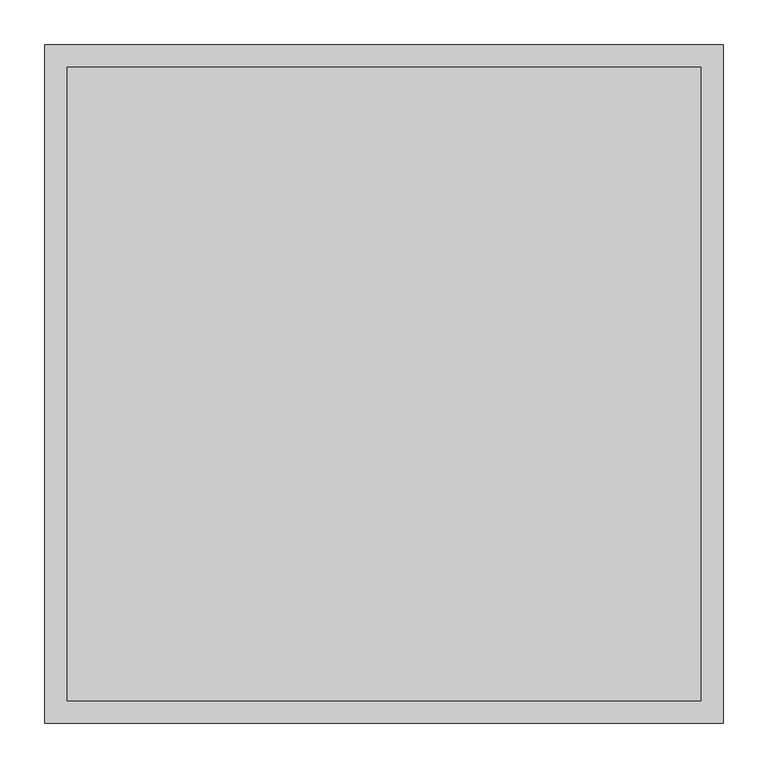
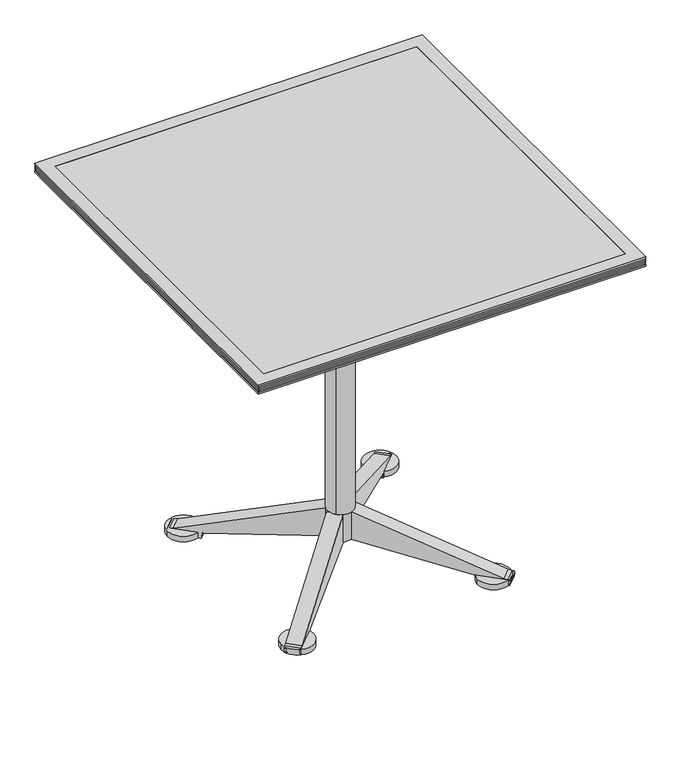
"""IFC4 building model written with IfcOpenShell, lengths in millimetres: furniture geometry, Coalesse_AM_Table_Conference_Ballet_Square : 30L x 30W - Fixed/Glide."""

from ifc_helpers import new_model, si_unit, point, frame, frame_2d, origin, origin_with_axes, place, context, project, spatial, polyline, circle_curve, trimmed, segment, composite_curve, outline, extrude, faceted_brep, source, transform, mapped, element, save


def furniture_112e565e(model_context):
    return source(origin(), model_context, "Body", "SolidModel", [
        extrude(outline(composite_curve([segment(trimmed(circle_curve(frame_2d((-194.715793, 197.3207687)), 31.75), [point((-226.465793, 197.3207687))], [point((-162.965793, 197.3207687))], False, "CARTESIAN"), True, "CONTINUOUS"), segment(trimmed(circle_curve(frame_2d((-194.715793, 197.3207687)), 31.75), [point((-162.965793, 197.3207687))], [point((-226.465793, 197.3207687))], False, "CARTESIAN"), True, "CONTINUOUS")], self_intersect=False)), frame((0.0, 0.0, 4.2904479), z_axis=(0.0, 0.0, 1.0), x_axis=(1.0, 0.0, 0.0)), (0.0, 0.0, 1.0), 11.3833531),
        extrude(outline(composite_curve([segment(trimmed(circle_curve(frame_2d((191.7194605, 196.5270187)), 31.75), [point((159.9694605, 196.5270187))], [point((223.4694605, 196.5270187))], False, "CARTESIAN"), True, "CONTINUOUS"), segment(trimmed(circle_curve(frame_2d((191.7194605, 196.5270187)), 31.75), [point((223.4694605, 196.5270187))], [point((159.9694605, 196.5270187))], False, "CARTESIAN"), True, "CONTINUOUS")], self_intersect=False)), frame((0.0, 0.0, 4.2904479), z_axis=(0.0, 0.0, 1.0), x_axis=(1.0, 0.0, 0.0)), (0.0, 0.0, 1.0), 11.3833531),
        extrude(outline(composite_curve([segment(trimmed(circle_curve(frame_2d((-194.715793, -191.2787692)), 31.75), [point((-226.465793, -191.2787692))], [point((-162.965793, -191.2787692))], False, "CARTESIAN"), True, "CONTINUOUS"), segment(trimmed(circle_curve(frame_2d((-194.715793, -191.2787692)), 31.75), [point((-162.965793, -191.2787692))], [point((-226.465793, -191.2787692))], False, "CARTESIAN"), True, "CONTINUOUS")], self_intersect=False)), frame((0.0, 0.0, 4.2904479), z_axis=(0.0, 0.0, 1.0), x_axis=(1.0, 0.0, 0.0)), (0.0, 0.0, 1.0), 11.3833531),
        extrude(outline(composite_curve([segment(trimmed(circle_curve(frame_2d((191.7194605, -190.4850192)), 31.75), [point((159.9694605, -190.4850192))], [point((223.4694605, -190.4850192))], False, "CARTESIAN"), True, "CONTINUOUS"), segment(trimmed(circle_curve(frame_2d((191.7194605, -190.4850192)), 31.75), [point((223.4694605, -190.4850192))], [point((159.9694605, -190.4850192))], False, "CARTESIAN"), True, "CONTINUOUS")], self_intersect=False)), frame((0.0, 0.0, 4.2904479), z_axis=(0.0, 0.0, 1.0), x_axis=(1.0, 0.0, 0.0)), (0.0, 0.0, 1.0), 11.3833531),
        extrude(outline(composite_curve([segment(polyline([(-57.749273, 0.0), (0.0, 0.0), (-90.9931074, -269.8641919), (-92.3030079, -279.1846177)]), True, "CONTINUOUS"), segment(trimmed(circle_curve(frame_2d((-93.9206951, -278.9572666)), 1.6335852), [point((-92.3030079, -279.1846177))], [point((-93.8206014, -280.5877823))], False, "CARTESIAN"), True, "CONTINUOUS"), segment(trimmed(circle_curve(frame_2d((-95.8523928, -247.4901147)), 33.1599725), [point((-93.8206014, -280.5877823))], [point((-101.682402, -280.1335639))], False, "CARTESIAN"), True, "CONTINUOUS"), segment(trimmed(circle_curve(frame_2d((-101.2796868, -277.8786768)), 2.2905666), [point((-101.682402, -280.1335639))], [point((-103.5674671, -277.7657306))], False, "CARTESIAN"), True, "CONTINUOUS"), segment(polyline([(-103.5674671, -277.7657306), (-103.5674671, -222.4322812)]), True, "CONTINUOUS"), segment(trimmed(circle_curve(frame_2d((-100.6154331, -221.9840334)), 2.9858719), [point((-103.5674671, -222.4322812))], [point((-100.2998684, -219.0148838))], False, "CARTESIAN"), True, "CONTINUOUS"), segment(trimmed(circle_curve(frame_2d((-98.3053249, -200.2482144)), 18.872363), [point((-100.2998684, -219.0148838))], [point((-94.5016021, -218.7332835))], True, "CARTESIAN"), True, "CONTINUOUS"), segment(trimmed(circle_curve(frame_2d((-95.1495986, -215.5841949)), 3.2150673), [point((-94.5016021, -218.7332835))], [point((-91.9741141, -216.0871422))], True, "CARTESIAN"), True, "CONTINUOUS"), segment(polyline([(-91.9741141, -216.0871422), (-57.749273, 0.0)]), True, "CONTINUOUS")], self_intersect=False)), frame((-23.5273141, 7.7834997, 107.857915), z_axis=(0.7071067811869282, 0.707106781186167, 0.0), x_axis=(0.0, 0.0, 1.0)), (0.0, 0.0, 1.0), 29.2174476),
        extrude(outline(composite_curve([segment(polyline([(-57.749273, 44.2801775), (-91.9741141, 260.3673198)]), True, "CONTINUOUS"), segment(trimmed(circle_curve(frame_2d((-95.1495986, 259.8643724)), 3.2150673), [point((-91.9741141, 260.3673198))], [point((-94.5016021, 263.013461))], True, "CARTESIAN"), True, "CONTINUOUS"), segment(trimmed(circle_curve(frame_2d((-98.3053249, 244.5283919)), 18.872363), [point((-94.5016021, 263.013461))], [point((-100.2998684, 263.2950613))], True, "CARTESIAN"), True, "CONTINUOUS"), segment(trimmed(circle_curve(frame_2d((-100.6154331, 266.2642109)), 2.9858719), [point((-100.2998684, 263.2950613))], [point((-103.5674671, 266.7124587))], False, "CARTESIAN"), True, "CONTINUOUS"), segment(polyline([(-103.5674671, 266.7124587), (-103.5674671, 322.0459081)]), True, "CONTINUOUS"), segment(trimmed(circle_curve(frame_2d((-101.2796868, 322.1588543)), 2.2905666), [point((-103.5674671, 322.0459081))], [point((-101.682402, 324.4137415))], False, "CARTESIAN"), True, "CONTINUOUS"), segment(trimmed(circle_curve(frame_2d((-95.8523928, 291.7702923)), 33.1599725), [point((-101.682402, 324.4137415))], [point((-93.8206014, 324.8679598))], False, "CARTESIAN"), True, "CONTINUOUS"), segment(trimmed(circle_curve(frame_2d((-93.9206951, 323.2374442)), 1.6335852), [point((-93.8206014, 324.8679598))], [point((-92.3030079, 323.4647953))], False, "CARTESIAN"), True, "CONTINUOUS"), segment(polyline([(-92.3030079, 323.4647953), (-90.9931074, 314.1443694), (0.0, 44.2801775), (-57.749273, 44.2801775)]), True, "CONTINUOUS")], self_intersect=False)), frame((-23.5273141, 7.7834997, 107.857915), z_axis=(0.7071067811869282, 0.707106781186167, 0.0), x_axis=(0.0, 0.0, 1.0)), (0.0, 0.0, 1.0), 29.2174476),
        extrude(outline(composite_curve([segment(polyline([(-57.749273, 0.0), (0.0, 0.0), (-90.9931074, -269.8641919), (-92.3030079, -279.1846177)]), True, "CONTINUOUS"), segment(trimmed(circle_curve(frame_2d((-93.9206951, -278.9572666)), 1.6335852), [point((-92.3030079, -279.1846177))], [point((-93.8206014, -280.5877823))], False, "CARTESIAN"), True, "CONTINUOUS"), segment(trimmed(circle_curve(frame_2d((-95.8523928, -247.4901147)), 33.1599725), [point((-93.8206014, -280.5877823))], [point((-101.682402, -280.1335639))], False, "CARTESIAN"), True, "CONTINUOUS"), segment(trimmed(circle_curve(frame_2d((-101.2796868, -277.8786768)), 2.2905666), [point((-101.682402, -280.1335639))], [point((-103.5674671, -277.7657306))], False, "CARTESIAN"), True, "CONTINUOUS"), segment(polyline([(-103.5674671, -277.7657306), (-103.5674671, -222.4322812)]), True, "CONTINUOUS"), segment(trimmed(circle_curve(frame_2d((-100.6154331, -221.9840334)), 2.9858719), [point((-103.5674671, -222.4322812))], [point((-100.2998684, -219.0148838))], False, "CARTESIAN"), True, "CONTINUOUS"), segment(trimmed(circle_curve(frame_2d((-98.3053249, -200.2482144)), 18.872363), [point((-100.2998684, -219.0148838))], [point((-94.5016021, -218.7332835))], True, "CARTESIAN"), True, "CONTINUOUS"), segment(trimmed(circle_curve(frame_2d((-95.1495986, -215.5841949)), 3.2150673), [point((-94.5016021, -218.7332835))], [point((-91.9741141, -216.0871422))], True, "CARTESIAN"), True, "CONTINUOUS"), segment(polyline([(-91.9741141, -216.0871422), (-57.749273, 0.0)]), True, "CONTINUOUS")], self_intersect=False)), frame((-7.7834997, -23.5273141, 107.857915), z_axis=(-0.7071067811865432, 0.7071067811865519, 0.0), x_axis=(0.0, 0.0, 1.0)), (0.0, 0.0, 1.0), 29.2174476),
        extrude(outline(composite_curve([segment(polyline([(-57.749273, 44.2801775), (-91.9741141, 260.3673198)]), True, "CONTINUOUS"), segment(trimmed(circle_curve(frame_2d((-95.1495986, 259.8643724)), 3.2150673), [point((-91.9741141, 260.3673198))], [point((-94.5016021, 263.013461))], True, "CARTESIAN"), True, "CONTINUOUS"), segment(trimmed(circle_curve(frame_2d((-98.3053249, 244.5283919)), 18.872363), [point((-94.5016021, 263.013461))], [point((-100.2998684, 263.2950613))], True, "CARTESIAN"), True, "CONTINUOUS"), segment(trimmed(circle_curve(frame_2d((-100.6154331, 266.2642109)), 2.9858719), [point((-100.2998684, 263.2950613))], [point((-103.5674671, 266.7124587))], False, "CARTESIAN"), True, "CONTINUOUS"), segment(polyline([(-103.5674671, 266.7124587), (-103.5674671, 322.0459081)]), True, "CONTINUOUS"), segment(trimmed(circle_curve(frame_2d((-101.2796868, 322.1588543)), 2.2905666), [point((-103.5674671, 322.0459081))], [point((-101.682402, 324.4137415))], False, "CARTESIAN"), True, "CONTINUOUS"), segment(trimmed(circle_curve(frame_2d((-95.8523928, 291.7702923)), 33.1599725), [point((-101.682402, 324.4137415))], [point((-93.8206014, 324.8679598))], False, "CARTESIAN"), True, "CONTINUOUS"), segment(trimmed(circle_curve(frame_2d((-93.9206951, 323.2374442)), 1.6335852), [point((-93.8206014, 324.8679598))], [point((-92.3030079, 323.4647953))], False, "CARTESIAN"), True, "CONTINUOUS"), segment(polyline([(-92.3030079, 323.4647953), (-90.9931074, 314.1443694), (0.0, 44.2801775), (-57.749273, 44.2801775)]), True, "CONTINUOUS")], self_intersect=False)), frame((-7.7834997, -23.5273141, 107.857915), z_axis=(-0.7071067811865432, 0.7071067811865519, 0.0), x_axis=(0.0, 0.0, 1.0)), (0.0, 0.0, 1.0), 29.2174476),
        extrude(outline(composite_curve([segment(polyline([(-57.749273, 0.0), (0.0, 0.0), (-90.9931074, -269.8641919), (-92.3030079, -279.1846177)]), True, "CONTINUOUS"), segment(trimmed(circle_curve(frame_2d((-93.9206951, -278.9572666)), 1.6335852), [point((-92.3030079, -279.1846177))], [point((-93.8206014, -280.5877823))], False, "CARTESIAN"), True, "CONTINUOUS"), segment(trimmed(circle_curve(frame_2d((-95.8523928, -247.4901147)), 33.1599725), [point((-93.8206014, -280.5877823))], [point((-101.682402, -280.1335639))], False, "CARTESIAN"), True, "CONTINUOUS"), segment(trimmed(circle_curve(frame_2d((-101.2796868, -277.8786768)), 2.2905666), [point((-101.682402, -280.1335639))], [point((-103.5674671, -277.7657306))], False, "CARTESIAN"), True, "CONTINUOUS"), segment(polyline([(-103.5674671, -277.7657306), (-103.5674671, -222.4322812)]), True, "CONTINUOUS"), segment(trimmed(circle_curve(frame_2d((-100.6154331, -221.9840334)), 2.9858719), [point((-103.5674671, -222.4322812))], [point((-100.2998684, -219.0148838))], False, "CARTESIAN"), True, "CONTINUOUS"), segment(trimmed(circle_curve(frame_2d((-98.3053249, -200.2482144)), 18.872363), [point((-100.2998684, -219.0148838))], [point((-94.5016021, -218.7332835))], True, "CARTESIAN"), True, "CONTINUOUS"), segment(trimmed(circle_curve(frame_2d((-95.1495986, -215.5841949)), 3.2150673), [point((-94.5016021, -218.7332835))], [point((-91.9741141, -216.0871422))], True, "CARTESIAN"), True, "CONTINUOUS"), segment(polyline([(-91.9741141, -216.0871422), (-57.749273, 0.0)]), True, "CONTINUOUS")], self_intersect=False)), frame((-23.5273141, 7.7834997, 107.857915), z_axis=(0.7071067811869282, 0.707106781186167, 0.0), x_axis=(0.0, 0.0, 1.0)), (0.0, 0.0, 1.0), 29.2174476),
        extrude(outline(composite_curve([segment(polyline([(-57.749273, 44.2801775), (-91.9741141, 260.3673198)]), True, "CONTINUOUS"), segment(trimmed(circle_curve(frame_2d((-95.1495986, 259.8643724)), 3.2150673), [point((-91.9741141, 260.3673198))], [point((-94.5016021, 263.013461))], True, "CARTESIAN"), True, "CONTINUOUS"), segment(trimmed(circle_curve(frame_2d((-98.3053249, 244.5283919)), 18.872363), [point((-94.5016021, 263.013461))], [point((-100.2998684, 263.2950613))], True, "CARTESIAN"), True, "CONTINUOUS"), segment(trimmed(circle_curve(frame_2d((-100.6154331, 266.2642109)), 2.9858719), [point((-100.2998684, 263.2950613))], [point((-103.5674671, 266.7124587))], False, "CARTESIAN"), True, "CONTINUOUS"), segment(polyline([(-103.5674671, 266.7124587), (-103.5674671, 322.0459081)]), True, "CONTINUOUS"), segment(trimmed(circle_curve(frame_2d((-101.2796868, 322.1588543)), 2.2905666), [point((-103.5674671, 322.0459081))], [point((-101.682402, 324.4137415))], False, "CARTESIAN"), True, "CONTINUOUS"), segment(trimmed(circle_curve(frame_2d((-95.8523928, 291.7702923)), 33.1599725), [point((-101.682402, 324.4137415))], [point((-93.8206014, 324.8679598))], False, "CARTESIAN"), True, "CONTINUOUS"), segment(trimmed(circle_curve(frame_2d((-93.9206951, 323.2374442)), 1.6335852), [point((-93.8206014, 324.8679598))], [point((-92.3030079, 323.4647953))], False, "CARTESIAN"), True, "CONTINUOUS"), segment(polyline([(-92.3030079, 323.4647953), (-90.9931074, 314.1443694), (0.0, 44.2801775), (-57.749273, 44.2801775)]), True, "CONTINUOUS")], self_intersect=False)), frame((-23.5273141, 7.7834997, 107.857915), z_axis=(0.7071067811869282, 0.707106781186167, 0.0), x_axis=(0.0, 0.0, 1.0)), (0.0, 0.0, 1.0), 29.2174476),
        extrude(outline(composite_curve([segment(polyline([(-57.749273, 0.0), (0.0, 0.0), (-90.9931074, -269.8641919), (-92.3030079, -279.1846177)]), True, "CONTINUOUS"), segment(trimmed(circle_curve(frame_2d((-93.9206951, -278.9572666)), 1.6335852), [point((-92.3030079, -279.1846177))], [point((-93.8206014, -280.5877823))], False, "CARTESIAN"), True, "CONTINUOUS"), segment(trimmed(circle_curve(frame_2d((-95.8523928, -247.4901147)), 33.1599725), [point((-93.8206014, -280.5877823))], [point((-101.682402, -280.1335639))], False, "CARTESIAN"), True, "CONTINUOUS"), segment(trimmed(circle_curve(frame_2d((-101.2796868, -277.8786768)), 2.2905666), [point((-101.682402, -280.1335639))], [point((-103.5674671, -277.7657306))], False, "CARTESIAN"), True, "CONTINUOUS"), segment(polyline([(-103.5674671, -277.7657306), (-103.5674671, -222.4322812)]), True, "CONTINUOUS"), segment(trimmed(circle_curve(frame_2d((-100.6154331, -221.9840334)), 2.9858719), [point((-103.5674671, -222.4322812))], [point((-100.2998684, -219.0148838))], False, "CARTESIAN"), True, "CONTINUOUS"), segment(trimmed(circle_curve(frame_2d((-98.3053249, -200.2482144)), 18.872363), [point((-100.2998684, -219.0148838))], [point((-94.5016021, -218.7332835))], True, "CARTESIAN"), True, "CONTINUOUS"), segment(trimmed(circle_curve(frame_2d((-95.1495986, -215.5841949)), 3.2150673), [point((-94.5016021, -218.7332835))], [point((-91.9741141, -216.0871422))], True, "CARTESIAN"), True, "CONTINUOUS"), segment(polyline([(-91.9741141, -216.0871422), (-57.749273, 0.0)]), True, "CONTINUOUS")], self_intersect=False)), frame((-7.7834997, -23.5273141, 107.857915), z_axis=(-0.7071067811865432, 0.7071067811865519, 0.0), x_axis=(0.0, 0.0, 1.0)), (0.0, 0.0, 1.0), 29.2174476),
        extrude(outline(composite_curve([segment(polyline([(-57.749273, 44.2801775), (-91.9741141, 260.3673198)]), True, "CONTINUOUS"), segment(trimmed(circle_curve(frame_2d((-95.1495986, 259.8643724)), 3.2150673), [point((-91.9741141, 260.3673198))], [point((-94.5016021, 263.013461))], True, "CARTESIAN"), True, "CONTINUOUS"), segment(trimmed(circle_curve(frame_2d((-98.3053249, 244.5283919)), 18.872363), [point((-94.5016021, 263.013461))], [point((-100.2998684, 263.2950613))], True, "CARTESIAN"), True, "CONTINUOUS"), segment(trimmed(circle_curve(frame_2d((-100.6154331, 266.2642109)), 2.9858719), [point((-100.2998684, 263.2950613))], [point((-103.5674671, 266.7124587))], False, "CARTESIAN"), True, "CONTINUOUS"), segment(polyline([(-103.5674671, 266.7124587), (-103.5674671, 322.0459081)]), True, "CONTINUOUS"), segment(trimmed(circle_curve(frame_2d((-101.2796868, 322.1588543)), 2.2905666), [point((-103.5674671, 322.0459081))], [point((-101.682402, 324.4137415))], False, "CARTESIAN"), True, "CONTINUOUS"), segment(trimmed(circle_curve(frame_2d((-95.8523928, 291.7702923)), 33.1599725), [point((-101.682402, 324.4137415))], [point((-93.8206014, 324.8679598))], False, "CARTESIAN"), True, "CONTINUOUS"), segment(trimmed(circle_curve(frame_2d((-93.9206951, 323.2374442)), 1.6335852), [point((-93.8206014, 324.8679598))], [point((-92.3030079, 323.4647953))], False, "CARTESIAN"), True, "CONTINUOUS"), segment(polyline([(-92.3030079, 323.4647953), (-90.9931074, 314.1443694), (0.0, 44.2801775), (-57.749273, 44.2801775)]), True, "CONTINUOUS")], self_intersect=False)), frame((-7.7834997, -23.5273141, 107.857915), z_axis=(-0.7071067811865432, 0.7071067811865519, 0.0), x_axis=(0.0, 0.0, 1.0)), (0.0, 0.0, 1.0), 29.2174476),
        extrude(outline(composite_curve([segment(polyline([(-37.2834365, 26.9246599), (-26.8661847, 37.3419116)]), True, "CONTINUOUS"), segment(trimmed(circle_curve(frame_2d((0.0745836, 10.4011432)), 38.1), [point((-26.8661847, 37.3419116))], [point((27.015352, 37.3419116))], False, "CARTESIAN"), True, "CONTINUOUS"), segment(polyline([(27.015352, 37.3419116), (38.9313594, 25.4259042)]), True, "CONTINUOUS"), segment(trimmed(circle_curve(frame_2d((13.4893466, -0.0161085)), 35.9804395), [point((38.9313594, 25.4259042))], [point((38.9313594, -25.4581212))], False, "CARTESIAN"), True, "CONTINUOUS"), segment(polyline([(38.9313594, -25.4581212), (27.015352, -37.3741286)]), True, "CONTINUOUS"), segment(trimmed(circle_curve(frame_2d((0.0745836, -10.4333602)), 38.1), [point((27.015352, -37.3741286))], [point((-26.8661847, -37.3741286))], False, "CARTESIAN"), True, "CONTINUOUS"), segment(polyline([(-26.8661847, -37.3741286), (-37.2834365, -26.9568769)]), True, "CONTINUOUS"), segment(trimmed(circle_curve(frame_2d((-10.3426681, -0.0161085)), 38.1), [point((-37.2834365, -26.9568769))], [point((-37.2834365, 26.9246599))], False, "CARTESIAN"), True, "CONTINUOUS")], self_intersect=False)), frame((0.0, 0.0, 607.6784119), z_axis=(0.0, 0.0, 1.0), x_axis=(1.0, 0.0, 0.0)), (0.0, 0.0, 1.0), 50.3081696),
        extrude(outline(composite_curve([segment(polyline([(-81.1409418, 49.3084633), (-49.5692956, 80.8801095)]), True, "CONTINUOUS"), segment(trimmed(circle_curve(frame_2d((0.0, 156.1108358)), 90.0931587), [point((-49.5692956, 80.8801095))], [point((49.871233, 81.0799264))], True, "CARTESIAN"), True, "CONTINUOUS"), segment(polyline([(49.871233, 81.0799264), (81.1309866, 49.8201728)]), True, "CONTINUOUS"), segment(trimmed(circle_curve(frame_2d((153.3620811, 0.0)), 87.7461145), [point((81.1309866, 49.8201728))], [point((81.7629451, -50.7241989))], True, "CARTESIAN"), True, "CONTINUOUS"), segment(polyline([(81.7629451, -50.7241989), (50.5881651, -81.8989789)]), True, "CONTINUOUS"), segment(trimmed(circle_curve(frame_2d((0.0, -154.7295322)), 88.6761069), [point((50.5881651, -81.8989789))], [point((-51.0893198, -82.2496499))], True, "CARTESIAN"), True, "CONTINUOUS"), segment(polyline([(-51.0893198, -82.2496499), (-82.3248918, -51.014078)]), True, "CONTINUOUS"), segment(trimmed(circle_curve(frame_2d((-153.9959305, 0.0)), 87.9725749), [point((-82.3248918, -51.014078))], [point((-81.1409418, 49.3084633))], True, "CARTESIAN"), True, "CONTINUOUS")], self_intersect=False)), frame((0.0, 0.0, 635.3095602), z_axis=(0.0, 0.0, 1.0), x_axis=(1.0, 0.0, 0.0)), (0.0, 0.0, 1.0), 22.6770213),
        extrude(outline(composite_curve([segment(polyline([(113.5341679, 0.0), (115.2899262, -10.0922386)]), True, "CONTINUOUS"), segment(trimmed(circle_curve(frame_2d((109.4715659, -11.1181725)), 5.9081179), [point((115.2899262, -10.0922386))], [point((112.4302147, -16.2321))], False, "CARTESIAN"), True, "CONTINUOUS"), segment(trimmed(circle_curve(frame_2d((-123.0846109, 390.8475551)), 470.2989248), [point((112.4302147, -16.2321))], [point((-41.0580682, -72.2428518))], False, "CARTESIAN"), True, "CONTINUOUS"), segment(trimmed(circle_curve(frame_2d((-123.0846109, 390.8475551)), 470.2989248), [point((-41.0580682, -72.2428518))], [point((-66.3016738, -76.0108568))], False, "CARTESIAN"), True, "CONTINUOUS"), segment(trimmed(circle_curve(frame_2d((-64.5252058, -90.6166359)), 14.7134164), [point((-66.3016738, -76.0108568))], [point((-76.8966336, -82.6521903))], True, "CARTESIAN"), True, "CONTINUOUS"), segment(trimmed(circle_curve(frame_2d((-64.5252058, -90.6166359)), 14.7134164), [point((-76.8966336, -82.6521903))], [point((-79.0128702, -93.1841644))], True, "CARTESIAN"), True, "CONTINUOUS"), segment(trimmed(circle_curve(frame_2d((-82.4193718, -93.7878704)), 3.4595829), [point((-79.0128702, -93.1841644))], [point((-81.5814971, -97.144458))], False, "CARTESIAN"), True, "CONTINUOUS"), segment(polyline([(-81.5814971, -97.144458), (-160.8938241, -97.144458)]), True, "CONTINUOUS"), segment(trimmed(circle_curve(frame_2d((-160.0559494, -93.7878704)), 3.4595829), [point((-160.8938241, -97.144458))], [point((-163.462451, -93.1841644))], False, "CARTESIAN"), True, "CONTINUOUS"), segment(trimmed(circle_curve(frame_2d((-177.9501154, -90.6166359)), 14.7134164), [point((-163.462451, -93.1841644))], [point((-165.5786876, -82.6521903))], True, "CARTESIAN"), True, "CONTINUOUS"), segment(trimmed(circle_curve(frame_2d((-177.9501154, -90.6166359)), 14.7134164), [point((-165.5786876, -82.6521903))], [point((-176.1736474, -76.0108568))], True, "CARTESIAN"), True, "CONTINUOUS"), segment(trimmed(circle_curve(frame_2d((-119.3907103, 390.8475551)), 470.2989248), [point((-176.1736474, -76.0108568))], [point((-201.417253, -72.2428518))], False, "CARTESIAN"), True, "CONTINUOUS"), segment(trimmed(circle_curve(frame_2d((-119.3907103, 390.8475551)), 470.2989248), [point((-201.417253, -72.2428518))], [point((-354.9055359, -16.2321))], False, "CARTESIAN"), True, "CONTINUOUS"), segment(trimmed(circle_curve(frame_2d((-351.9468871, -11.1181725)), 5.9081179), [point((-354.9055359, -16.2321))], [point((-357.7652474, -10.0922386))], False, "CARTESIAN"), True, "CONTINUOUS"), segment(polyline([(-357.7652474, -10.0922386), (-355.9857135, 0.0679469), (-243.7205553, 0.0679469)]), True, "CONTINUOUS"), segment(trimmed(circle_curve(frame_2d((-184.2805603, 14.4713039)), 61.1601971), [point((-243.7205553, 0.0679469))], [point((-195.8898677, -45.5769575))], True, "CARTESIAN"), True, "CONTINUOUS"), segment(trimmed(circle_curve(frame_2d((-133.6508876, 282.6884214)), 334.1135281), [point((-195.8898677, -45.5769575))], [point((-152.1077021, -50.9149293))], True, "CARTESIAN"), True, "CONTINUOUS"), segment(trimmed(circle_curve(frame_2d((-151.5110625, -39.8460589)), 11.0849389), [point((-152.1077021, -50.9149293))], [point((-142.3165925, -46.0377945))], True, "CARTESIAN"), True, "CONTINUOUS"), segment(polyline([(-142.3165925, -46.0377945), (-100.193637, -46.0377945)]), True, "CONTINUOUS"), segment(trimmed(circle_curve(frame_2d((-91.0046411, -39.8584423)), 11.0734837), [point((-100.193637, -46.0377945))], [point((-90.2559551, -50.9065873))], True, "CARTESIAN"), True, "CONTINUOUS"), segment(trimmed(circle_curve(frame_2d((-108.7814051, 282.6895624)), 334.1101367), [point((-90.2559551, -50.9065873))], [point((-46.5723215, -45.5780317))], True, "CARTESIAN"), True, "CONTINUOUS"), segment(trimmed(circle_curve(frame_2d((-58.1722458, 14.4515716)), 61.1400975), [point((-46.5723215, -45.5780317))], [point((1.2353597, 0.0))], True, "CARTESIAN"), True, "CONTINUOUS"), segment(polyline([(1.2353597, 0.0), (113.5341679, 0.0)]), True, "CONTINUOUS")], self_intersect=False)), frame((-101.3833789, 70.072565, 704.85), z_axis=(0.7071067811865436, 0.7071067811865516, 0.0), x_axis=(-0.7071067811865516, 0.7071067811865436, 0.0)), (0.0, 0.0, 1.0), 44.2801776),
        extrude(outline(composite_curve([segment(polyline([(112.2651581, 0.0), (114.044692, -10.1601855)]), True, "CONTINUOUS"), segment(trimmed(circle_curve(frame_2d((108.2263318, -11.1861194)), 5.9081179), [point((114.044692, -10.1601855))], [point((111.1849806, -16.3000469))], False, "CARTESIAN"), True, "CONTINUOUS"), segment(trimmed(circle_curve(frame_2d((-124.3298451, 390.7796082)), 470.2989248), [point((111.1849806, -16.3000469))], [point((-42.3033023, -72.3107987))], False, "CARTESIAN"), True, "CONTINUOUS"), segment(trimmed(circle_curve(frame_2d((-124.3298451, 390.7796082)), 470.2989248), [point((-42.3033023, -72.3107987))], [point((-67.5469079, -76.0788037))], False, "CARTESIAN"), True, "CONTINUOUS"), segment(trimmed(circle_curve(frame_2d((-65.77044, -90.6845828)), 14.7134164), [point((-67.5469079, -76.0788037))], [point((-78.1418678, -82.7201372))], True, "CARTESIAN"), True, "CONTINUOUS"), segment(trimmed(circle_curve(frame_2d((-65.77044, -90.6845828)), 14.7134164), [point((-78.1418678, -82.7201372))], [point((-80.2581043, -93.2521113))], True, "CARTESIAN"), True, "CONTINUOUS"), segment(trimmed(circle_curve(frame_2d((-83.6646059, -93.8558173)), 3.4595829), [point((-80.2581043, -93.2521113))], [point((-82.8267313, -97.2124049))], False, "CARTESIAN"), True, "CONTINUOUS"), segment(polyline([(-82.8267313, -97.2124049), (-162.1390582, -97.2124049)]), True, "CONTINUOUS"), segment(trimmed(circle_curve(frame_2d((-161.3011835, -93.8558173)), 3.4595829), [point((-162.1390582, -97.2124049))], [point((-164.7076852, -93.2521113))], False, "CARTESIAN"), True, "CONTINUOUS"), segment(trimmed(circle_curve(frame_2d((-179.1953495, -90.6845828)), 14.7134164), [point((-164.7076852, -93.2521113))], [point((-166.8239217, -82.7201372))], True, "CARTESIAN"), True, "CONTINUOUS"), segment(trimmed(circle_curve(frame_2d((-179.1953495, -90.6845828)), 14.7134164), [point((-166.8239217, -82.7201372))], [point((-177.4188815, -76.0788037))], True, "CARTESIAN"), True, "CONTINUOUS"), segment(trimmed(circle_curve(frame_2d((-120.6359444, 390.7796082)), 470.2989248), [point((-177.4188815, -76.0788037))], [point((-202.6624871, -72.3107987))], False, "CARTESIAN"), True, "CONTINUOUS"), segment(trimmed(circle_curve(frame_2d((-120.6359444, 390.7796082)), 470.2989248), [point((-202.6624871, -72.3107987))], [point((-356.1507701, -16.3000469))], False, "CARTESIAN"), True, "CONTINUOUS"), segment(trimmed(circle_curve(frame_2d((-353.1921213, -11.1861194)), 5.9081179), [point((-356.1507701, -16.3000469))], [point((-359.0104815, -10.1601855))], False, "CARTESIAN"), True, "CONTINUOUS"), segment(polyline([(-359.0104815, -10.1601855), (-357.2547233, -0.0679469), (-244.955915, -0.0679469)]), True, "CONTINUOUS"), segment(trimmed(circle_curve(frame_2d((-185.5483095, 14.3836247)), 61.1400975), [point((-244.955915, -0.0679469))], [point((-197.1482338, -45.6459786))], True, "CARTESIAN"), True, "CONTINUOUS"), segment(trimmed(circle_curve(frame_2d((-134.9391503, 282.6216155)), 334.1101367), [point((-197.1482338, -45.6459786))], [point((-153.4646002, -50.9745342))], True, "CARTESIAN"), True, "CONTINUOUS"), segment(trimmed(circle_curve(frame_2d((-152.7159142, -39.9263892)), 11.0734837), [point((-153.4646002, -50.9745342))], [point((-143.5269184, -46.1057414))], True, "CARTESIAN"), True, "CONTINUOUS"), segment(polyline([(-143.5269184, -46.1057414), (-101.4039629, -46.1057414)]), True, "CONTINUOUS"), segment(trimmed(circle_curve(frame_2d((-92.2094928, -39.9140058)), 11.0849389), [point((-101.4039629, -46.1057414))], [point((-91.6128533, -50.9828762))], True, "CARTESIAN"), True, "CONTINUOUS"), segment(trimmed(circle_curve(frame_2d((-110.0696677, 282.6204745)), 334.1135281), [point((-91.6128533, -50.9828762))], [point((-47.8306877, -45.6449044))], True, "CARTESIAN"), True, "CONTINUOUS"), segment(trimmed(circle_curve(frame_2d((-59.4399951, 14.403357)), 61.1601971), [point((-47.8306877, -45.6449044))], [point((0.0, 0.0))], True, "CARTESIAN"), True, "CONTINUOUS"), segment(polyline([(0.0, 0.0), (112.2651581, 0.0)]), True, "CONTINUOUS")], self_intersect=False)), frame((-70.9530785, -102.2638924, 704.9179469), z_axis=(-0.707106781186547, 0.7071067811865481, 0.0), x_axis=(-0.7071067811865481, -0.707106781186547, 0.0)), (0.0, 0.0, 1.0), 44.2801776),
        extrude(outline(composite_curve([segment(trimmed(circle_curve(frame_2d((1.04e-05, -1.04e-05)), 25.3999999), [point((-17.9605018, -17.9605225))], [point((17.9605225, 17.9605018))], False, "CARTESIAN"), True, "CONTINUOUS"), segment(trimmed(circle_curve(frame_2d((1.04e-05, -1.04e-05)), 25.3999999), [point((17.9605225, 17.9605018))], [point((-17.9605018, -17.9605225))], False, "CARTESIAN"), True, "CONTINUOUS")], self_intersect=False)), frame((0.0, 0.0, 107.857915), z_axis=(0.0, 0.0, 1.0), x_axis=(1.0, 0.0, 0.0)), (0.0, 0.0, 1.0), 499.8204968),
        extrude(outline(composite_curve([segment(trimmed(circle_curve(frame_2d((192.2336051, -190.6461051)), 25.4), [point((174.2730929, -208.6066174))], [point((210.1941174, -172.6855929))], False, "CARTESIAN"), True, "CONTINUOUS"), segment(trimmed(circle_curve(frame_2d((192.2336051, -190.6461051)), 25.4), [point((210.1941174, -172.6855929))], [point((174.2730929, -208.6066174))], False, "CARTESIAN"), True, "CONTINUOUS")], self_intersect=False)), origin_with_axes(), (0.0, 0.0, 1.0), 4.2904479),
        extrude(outline(composite_curve([segment(trimmed(circle_curve(frame_2d((192.2336051, 196.9961051)), 25.4), [point((174.2730929, 179.0355929))], [point((210.1941174, 214.9566174))], False, "CARTESIAN"), True, "CONTINUOUS"), segment(trimmed(circle_curve(frame_2d((192.2336051, 196.9961051)), 25.4), [point((210.1941174, 214.9566174))], [point((174.2730929, 179.0355929))], False, "CARTESIAN"), True, "CONTINUOUS")], self_intersect=False)), origin_with_axes(), (0.0, 0.0, 1.0), 4.2904479),
        extrude(outline(composite_curve([segment(trimmed(circle_curve(frame_2d((-194.6148551, -191.4398551)), 25.4), [point((-212.5753674, -209.4003674))], [point((-176.6543429, -173.4793429))], False, "CARTESIAN"), True, "CONTINUOUS"), segment(trimmed(circle_curve(frame_2d((-194.6148551, -191.4398551)), 25.4), [point((-176.6543429, -173.4793429))], [point((-212.5753674, -209.4003674))], False, "CARTESIAN"), True, "CONTINUOUS")], self_intersect=False)), origin_with_axes(), (0.0, 0.0, 1.0), 4.2904479),
        extrude(outline(composite_curve([segment(trimmed(circle_curve(frame_2d((-194.2179801, 197.3929801)), 25.4), [point((-212.1784924, 179.4324679))], [point((-176.2574679, 215.3534924))], False, "CARTESIAN"), True, "CONTINUOUS"), segment(trimmed(circle_curve(frame_2d((-194.2179801, 197.3929801)), 25.4), [point((-176.2574679, 215.3534924))], [point((-212.1784924, 179.4324679))], False, "CARTESIAN"), True, "CONTINUOUS")], self_intersect=False)), origin_with_axes(), (0.0, 0.0, 1.0), 4.2904479),
        extrude(outline(composite_curve([segment(trimmed(circle_curve(frame_2d((1.04e-05, -1.04e-05)), 25.3999999), [point((-17.9605018, -17.9605225))], [point((17.9605225, 17.9605018))], False, "CARTESIAN"), True, "CONTINUOUS"), segment(trimmed(circle_curve(frame_2d((1.04e-05, -1.04e-05)), 25.3999999), [point((17.9605225, 17.9605018))], [point((-17.9605018, -17.9605225))], False, "CARTESIAN"), True, "CONTINUOUS")], self_intersect=False)), frame((0.0, 0.0, 50.8000015), z_axis=(0.0, 0.0, 1.0), x_axis=(1.0, 0.0, 0.0)), (0.0, 0.0, 1.0), 556.8784104),
        faceted_brep([(-381.0003633, 381.0, 704.85), (-355.6003876, 355.6000242, 698.5000242), (-355.6003876, -355.5999516, 698.5000242), (-381.0003633, -380.9999273, 704.85), (-381.0003633, 381.0, 708.0250242), (-381.0003633, -380.9999273, 708.0250242), (-377.8253755, 377.8250121, 709.6125), (-377.8253755, -377.8249394, 709.6125), (-381.0003633, 381.0, 711.1999758), (-381.0003633, -380.9999273, 711.1999758), (-377.8253755, 377.8250121, 712.7875242), (-377.8253755, -377.8249394, 712.7875242), (-381.0003633, 381.0, 714.375), (-381.0003633, -380.9999273, 714.375), (-377.8253755, 377.8250121, 715.9624758), (-377.8253755, -377.8249394, 715.9624758), (-381.0003633, 381.0, 717.5500242), (-381.0003633, -380.9999273, 717.5500242), (-377.8253755, 377.8250121, 719.1375), (-377.8253755, -377.8249394, 719.1375), (-381.0003633, 381.0, 720.7249758), (-381.0003633, -380.9999273, 720.7249758), (-381.0003633, 381.0, 723.9), (-381.0003633, -380.9999273, 723.9), (-355.6003876, 355.6000242, 723.9), (-355.6003876, -355.5999516, 723.9), (355.5998062, -355.5999516, 698.5000242), (380.999782, -380.9999273, 704.85), (380.999782, -380.9999273, 708.0250242), (377.8247941, -377.8249394, 709.6125), (380.999782, -380.9999273, 711.1999758), (377.8247941, -377.8249394, 712.7875242), (380.999782, -380.9999273, 714.375), (377.8247941, -377.8249394, 715.9624758), (380.999782, -380.9999273, 717.5500242), (377.8247941, -377.8249394, 719.1375), (380.999782, -380.9999273, 720.7249758), (380.999782, -380.9999273, 723.9), (355.5998062, -355.5999516, 723.9), (355.5998062, 355.6000242, 698.5000242), (380.999782, 381.0, 704.85), (380.999782, 381.0, 708.0250242), (377.8247941, 377.8250121, 709.6125), (380.999782, 381.0, 711.1999758), (377.8247941, 377.8250121, 712.7875242), (380.999782, 381.0, 714.375), (377.8247941, 377.8250121, 715.9624758), (380.999782, 381.0, 717.5500242), (377.8247941, 377.8250121, 719.1375), (380.999782, 381.0, 720.7249758), (380.999782, 381.0, 723.9), (355.5998062, 355.6000242, 723.9)], [[[0, 1, 2, 3]], [[4, 0, 3, 5]], [[6, 4, 5, 7]], [[8, 6, 7, 9]], [[10, 8, 9, 11]], [[12, 10, 11, 13]], [[14, 12, 13, 15]], [[16, 14, 15, 17]], [[18, 16, 17, 19]], [[20, 18, 19, 21]], [[22, 20, 21, 23]], [[1, 24, 25, 2]], [[3, 2, 26, 27]], [[5, 3, 27, 28]], [[7, 5, 28, 29]], [[9, 7, 29, 30]], [[11, 9, 30, 31]], [[13, 11, 31, 32]], [[15, 13, 32, 33]], [[17, 15, 33, 34]], [[19, 17, 34, 35]], [[21, 19, 35, 36]], [[23, 21, 36, 37]], [[2, 25, 38, 26]], [[27, 26, 39, 40]], [[28, 27, 40, 41]], [[29, 28, 41, 42]], [[30, 29, 42, 43]], [[31, 30, 43, 44]], [[32, 31, 44, 45]], [[33, 32, 45, 46]], [[34, 33, 46, 47]], [[35, 34, 47, 48]], [[36, 35, 48, 49]], [[37, 36, 49, 50]], [[26, 38, 51, 39]], [[40, 39, 1, 0]], [[41, 40, 0, 4]], [[42, 41, 4, 6]], [[43, 42, 6, 8]], [[44, 43, 8, 10]], [[45, 44, 10, 12]], [[46, 45, 12, 14]], [[47, 46, 14, 16]], [[48, 47, 16, 18]], [[49, 48, 18, 20]], [[50, 49, 20, 22]], [[23, 37, 50, 22], [24, 51, 38, 25]], [[39, 51, 24, 1]]]),
        extrude(outline(polyline([(355.5998062, 355.6000242), (355.5998062, -355.5999516), (-355.6003876, -355.5999516), (-355.6003876, 355.6000242), (355.5998062, 355.6000242)])), frame((0.0, 0.0, 704.85), z_axis=(0.0, 0.0, 1.0), x_axis=(1.0, 0.0, 0.0)), (0.0, 0.0, 1.0), 19.05),
    ])


if __name__ == "__main__":
    model = new_model("IFC4")
    model_context = context("Model", 3, world=origin())
    ifc_project = project(units=[si_unit("LENGTHUNIT", "METRE", prefix="MILLI")], contexts=[model_context])
    site = spatial("IfcSite", under=ifc_project)
    building = spatial("IfcBuilding", under=site)
    placement = place(None, origin())
    furniture_shape = furniture_112e565e(model_context)
    element("IfcFurniture", 1, ObjectType="Coalesse_AM_Table_Conference_Ballet_Square : 30L x 30W - Fixed/Glide", at=placement, inside=building, context=model_context, shape_type="MappedRepresentation", body=[
        mapped(furniture_shape, transform((0.0, 0.0, 0.0), x_axis=(1.0, 0.0, 0.0), y_axis=(0.0, 1.0, 0.0), z_axis=(0.0, 0.0, 1.0))),
    ])
    save(model, "model.ifc")
